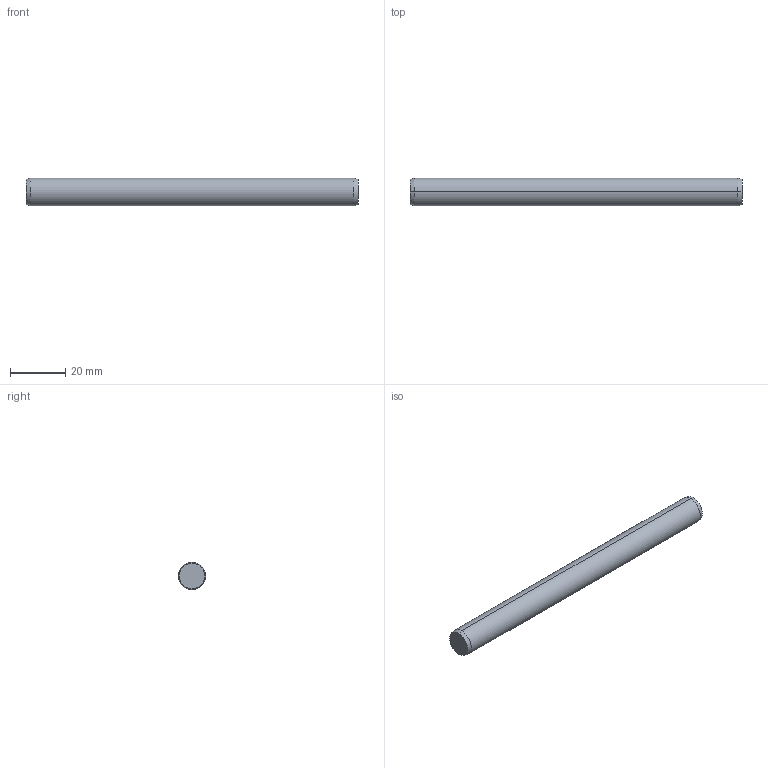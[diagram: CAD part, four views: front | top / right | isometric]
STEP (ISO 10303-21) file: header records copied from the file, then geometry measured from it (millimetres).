
FILE_DESCRIPTION (( 'STEP AP203' ), '1' );
FILE_NAME ('P1206.100-120.step', '2017-06-14T08:35:51', ( 'User' ), ( '' ), 'SwSTEP 2.0', 'SolidWorks 2009', '' );
FILE_SCHEMA (( 'CONFIG_CONTROL_DESIGN' ));
Length unit declared in the file: millimetre
Products named in the file (1): P1206.100-120
Bounding box: 120 x 10 x 10 mm (x, y, z)
Volume: 9406.3 mm3; surface area: 3902.2 mm2
Topology: 1 solids, 1 shells, 8 faces, 14 edges, 8 vertices
Faces by surface type: cone 4, cylinder 2, plane 2
Entity records: 271 total; most frequent: DIRECTION 40, CARTESIAN_POINT 31, ORIENTED_EDGE 28, AXIS2_PLACEMENT_3D 17, EDGE_CURVE 14, FACE_OUTER_BOUND 8, ADVANCED_FACE 8, EDGE_LOOP 8
